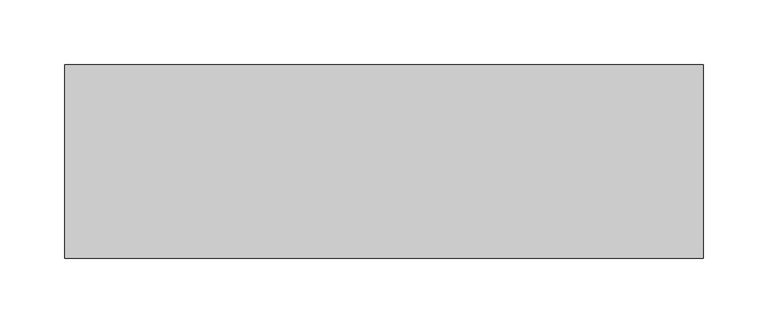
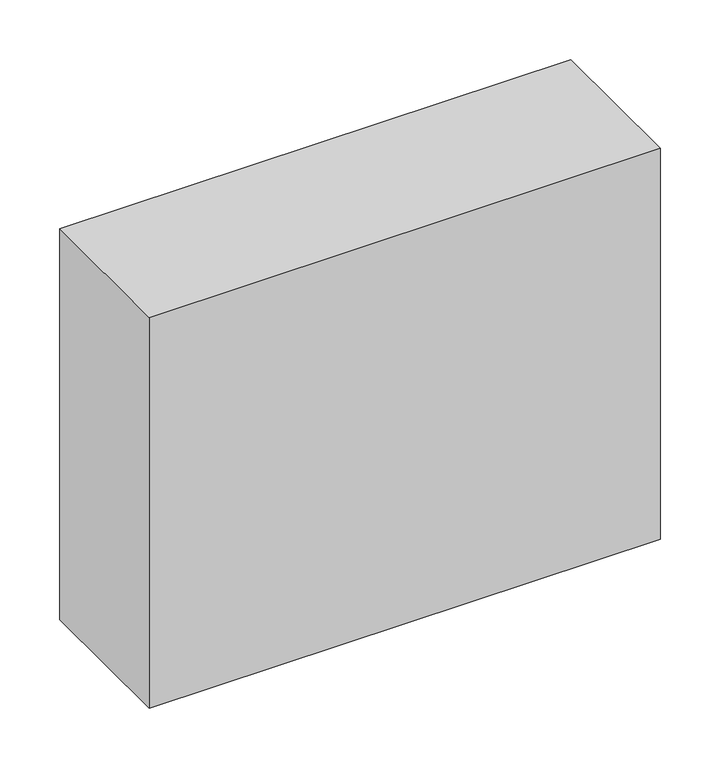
"""IFC4 building model written with IfcOpenShell, lengths in millimetres: proxy geometry."""

from ifc_helpers import new_model, si_unit, frame, origin, place, context, project, spatial, polyline, outline, extrude, source, transform, mapped, element, save


def structural_framing_3535d77a(model_context):
    return source(origin(), model_context, "Body", "SweptSolid", [
        extrude(outline(polyline([(-247.5, -75.0), (-247.5, 75.0), (247.5, 75.0), (247.5, -75.0), (-247.5, -75.0)])), frame((0.0, 0.0, -400.0), z_axis=(0.0, 0.0, 1.0), x_axis=(1.0, 0.0, 0.0)), (0.0, 0.0, 1.0), 400.0),
    ])


if __name__ == "__main__":
    model = new_model("IFC4")
    model_context = context("Model", 3, world=origin())
    ifc_project = project(units=[si_unit("LENGTHUNIT", "METRE", prefix="MILLI")], contexts=[model_context])
    site = spatial("IfcSite", under=ifc_project)
    building = spatial("IfcBuilding", under=site)
    placement = place(None, origin())
    structural_framing_shape = structural_framing_3535d77a(model_context)
    element("IfcBuildingElementProxy", 1, Name="Structural Framing", at=placement, inside=building, context=model_context, shape_type="MappedRepresentation", body=[
        mapped(structural_framing_shape, transform((0.0, 0.0, 0.0), x_axis=(1.0, 0.0, 0.0), y_axis=(0.0, 1.0, 0.0), z_axis=(0.0, 0.0, 1.0))),
    ])
    save(model, "model.ifc")
